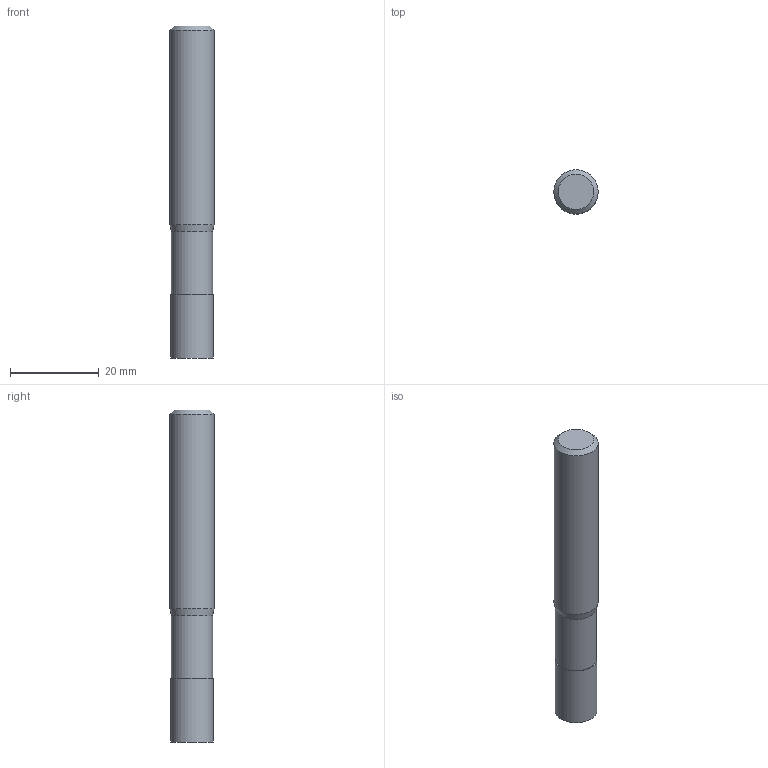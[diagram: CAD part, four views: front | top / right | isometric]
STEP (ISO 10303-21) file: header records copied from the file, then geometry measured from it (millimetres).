
FILE_DESCRIPTION((''),'2;1');
FILE_NAME('C:\Users\nsx150\AppData\Local\Temp\Mastercam 2021\EUJSUNXURU\TEMP.step','2021-04-22T10:29:47',(''),(''),'STEP Write','Mastercam 2021 ... CNC Software, Inc.','');
FILE_SCHEMA(('AUTOMOTIVE_DESIGN'));
Length unit declared in the file: millimetre
Products named in the file (1): None
Bounding box: 10 x 10 x 75 mm (x, y, z)
Volume: 5606.8 mm3; surface area: 2570.3 mm2
Topology: 2 solids, 2 shells, 9 faces, 12 edges, 7 vertices
Faces by surface type: plane 4, cylinder 3, cone 2
Full cylindrical faces by diameter (mm): 9.3 x1, 9.5 x1, 10 x1
Entity records: 211 total; most frequent: DIRECTION 36, CARTESIAN_POINT 25, AXIS2_PLACEMENT_3D 18, ORIENTED_EDGE 14, EDGE_LOOP 14, STYLED_ITEM 12, ADVANCED_FACE 9, FACE_BOUND 8
